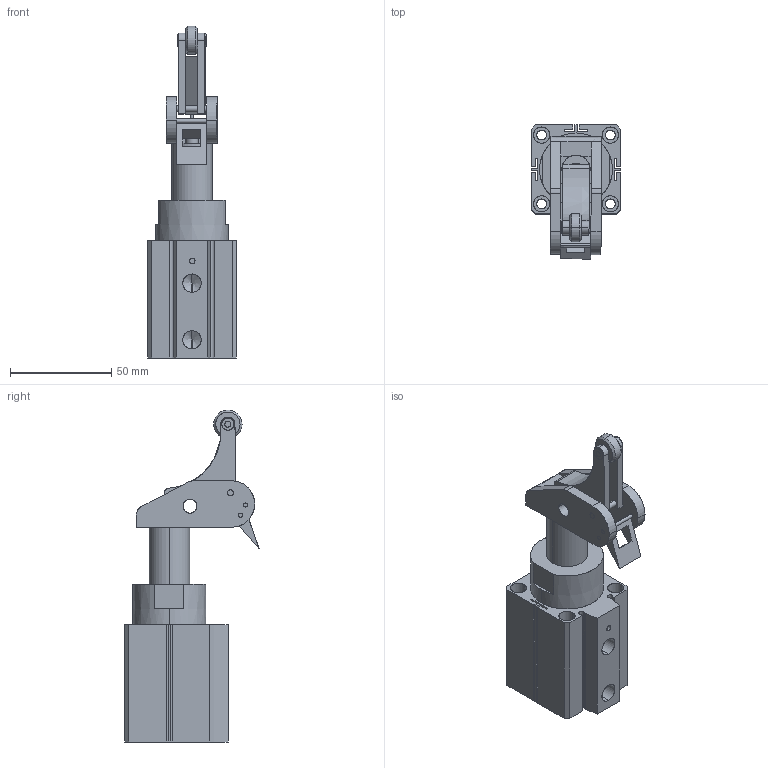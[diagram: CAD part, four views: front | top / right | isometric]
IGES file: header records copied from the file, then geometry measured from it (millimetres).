
Start section: SolidWorks IGES file using analytic representation for surfaces
Global section: file name: H:\elod\elod 32\course 10\elod32-10.IGS; native system: SolidWorks 2010; preprocessor: SolidWorks 2010; author: SGA; date: 110512.092944; units: millimetre
Bounding box: 44 x 66.36 x 164.19 mm (x, y, z)
Surface area: 42723.8 mm2 (no closed solid volume)
Topology: 0 solids, 0 shells, 234 faces, 3952 edges, 3946 vertices
Faces by surface type: bspline 119, revolution 115
